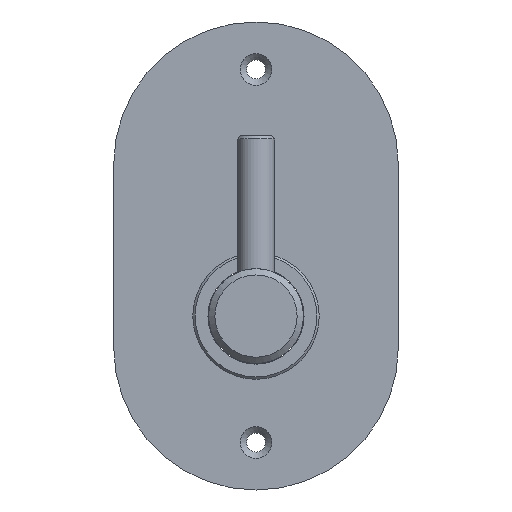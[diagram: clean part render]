
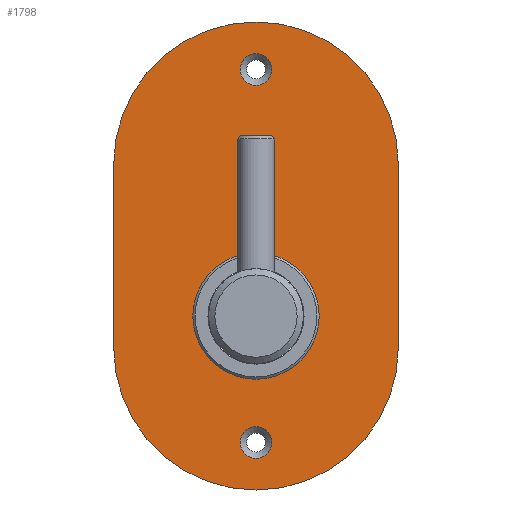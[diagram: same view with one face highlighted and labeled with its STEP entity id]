
A CAD part, front view. The second image highlights one B-rep face of the part: STEP entity #1798.
In plain terms, the highlighted planar face has unit normal (0, -1, 0) as drawn and (0, 0, 1) by its records, which use the part's own axes.
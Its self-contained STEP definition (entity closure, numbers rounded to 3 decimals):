
#133=FACE_BOUND('',#491,.T.);
#134=FACE_BOUND('',#492,.T.);
#135=FACE_BOUND('',#493,.T.);
#170=PLANE('',#2252);
#233=CIRCLE('',#2236,5.);
#235=CIRCLE('',#2239,5.);
#238=CIRCLE('',#2243,17.5);
#239=CIRCLE('',#2245,45.);
#241=CIRCLE('',#2249,45.);
#366=FACE_OUTER_BOUND('',#490,.T.);
#490=EDGE_LOOP('',(#1315,#1316,#1317,#1318));
#491=EDGE_LOOP('',(#1319));
#492=EDGE_LOOP('',(#1320));
#493=EDGE_LOOP('',(#1321));
#632=LINE('',#3273,#731);
#636=LINE('',#3284,#735);
#731=VECTOR('',#2570,10.);
#735=VECTOR('',#2582,10.);
#856=VERTEX_POINT('',#3245);
#858=VERTEX_POINT('',#3251);
#861=VERTEX_POINT('',#3259);
#862=VERTEX_POINT('',#3263);
#863=VERTEX_POINT('',#3264);
#866=VERTEX_POINT('',#3272);
#868=VERTEX_POINT('',#3278);
#1022=EDGE_CURVE('',#856,#856,#233,.T.);
#1025=EDGE_CURVE('',#858,#858,#235,.T.);
#1030=EDGE_CURVE('',#861,#861,#238,.T.);
#1031=EDGE_CURVE('',#862,#863,#239,.T.);
#1035=EDGE_CURVE('',#863,#866,#632,.T.);
#1038=EDGE_CURVE('',#866,#868,#241,.T.);
#1041=EDGE_CURVE('',#868,#862,#636,.T.);
#1315=ORIENTED_EDGE('',*,*,#1031,.F.);
#1316=ORIENTED_EDGE('',*,*,#1041,.F.);
#1317=ORIENTED_EDGE('',*,*,#1038,.F.);
#1318=ORIENTED_EDGE('',*,*,#1035,.F.);
#1319=ORIENTED_EDGE('',*,*,#1022,.T.);
#1320=ORIENTED_EDGE('',*,*,#1025,.T.);
#1321=ORIENTED_EDGE('',*,*,#1030,.T.);
#1798=ADVANCED_FACE('',(#366,#133,#134,#135),#170,.T.);
#2236=AXIS2_PLACEMENT_3D('',#3246,#2541,#2542);
#2239=AXIS2_PLACEMENT_3D('',#3252,#2548,#2549);
#2243=AXIS2_PLACEMENT_3D('',#3261,#2558,#2559);
#2245=AXIS2_PLACEMENT_3D('',#3265,#2562,#2563);
#2249=AXIS2_PLACEMENT_3D('',#3279,#2575,#2576);
#2252=AXIS2_PLACEMENT_3D('',#3286,#2584,#2585);
#2541=DIRECTION('center_axis',(0.,0.,-1.));
#2542=DIRECTION('ref_axis',(1.,0.,0.));
#2548=DIRECTION('center_axis',(0.,0.,-1.));
#2549=DIRECTION('ref_axis',(1.,0.,0.));
#2558=DIRECTION('center_axis',(0.,0.,-1.));
#2559=DIRECTION('ref_axis',(-1.,0.,0.));
#2562=DIRECTION('center_axis',(0.,0.,-1.));
#2563=DIRECTION('ref_axis',(1.,0.,0.));
#2570=DIRECTION('',(0.,1.,0.));
#2575=DIRECTION('center_axis',(0.,0.,-1.));
#2576=DIRECTION('ref_axis',(-1.,0.,0.));
#2582=DIRECTION('',(0.,-1.,0.));
#2584=DIRECTION('center_axis',(0.,0.,1.));
#2585=DIRECTION('ref_axis',(1.,0.,0.));
#3245=CARTESIAN_POINT('',(-5.,-78.,2.));
#3246=CARTESIAN_POINT('Origin',(0.,-78.,2.));
#3251=CARTESIAN_POINT('',(-5.,40.,2.));
#3252=CARTESIAN_POINT('Origin',(0.,40.,2.));
#3259=CARTESIAN_POINT('',(17.5,0.,2.));
#3261=CARTESIAN_POINT('Origin',(0.,0.,2.));
#3263=CARTESIAN_POINT('',(45.,-48.,2.));
#3264=CARTESIAN_POINT('',(-45.,-48.,2.));
#3265=CARTESIAN_POINT('Origin',(0.,-48.,2.));
#3272=CARTESIAN_POINT('',(-45.,10.,2.));
#3273=CARTESIAN_POINT('',(-45.,-48.,2.));
#3278=CARTESIAN_POINT('',(45.,10.,2.));
#3279=CARTESIAN_POINT('Origin',(0.,10.,2.));
#3284=CARTESIAN_POINT('',(45.,10.,2.));
#3286=CARTESIAN_POINT('Origin',(0.,-19.,2.));
